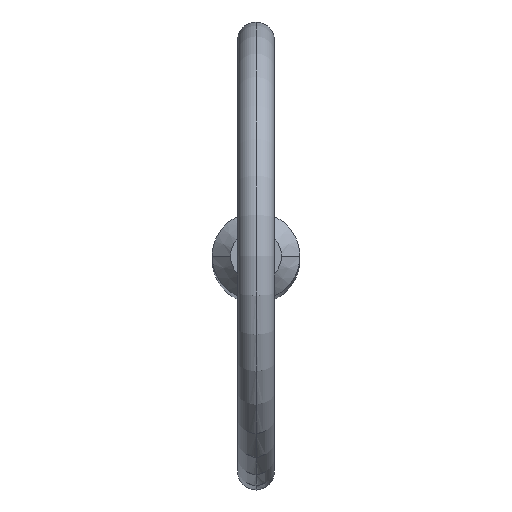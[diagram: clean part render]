
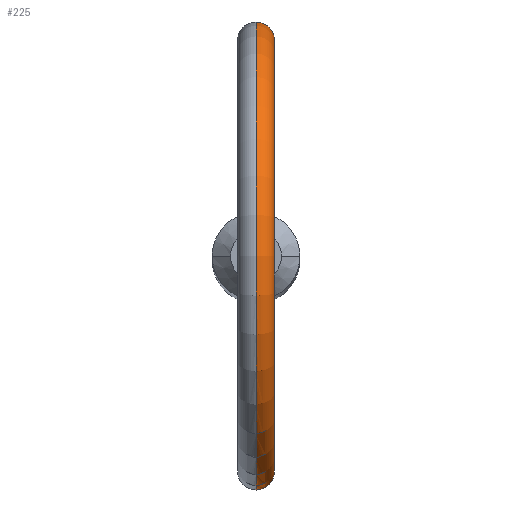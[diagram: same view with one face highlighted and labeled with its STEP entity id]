
A CAD part, top view. The second image highlights one B-rep face of the part: STEP entity #225.
In plain terms, the highlighted toroidal (fillet/blend) face has major radius 11.7 mm and minor radius 1 mm.
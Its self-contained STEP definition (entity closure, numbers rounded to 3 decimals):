
#3 = ORIENTED_EDGE ( 'NONE', *, *, #342, .F. ) ;
#19 = EDGE_LOOP ( 'NONE', ( #454, #93, #3, #243 ) ) ;
#36 = CARTESIAN_POINT ( 'NONE',  ( 0.981, 2.169, 100.062 ) ) ;
#40 = CARTESIAN_POINT ( 'NONE',  ( 0.134, 2.38, 101.368 ) ) ;
#45 = VERTEX_POINT ( 'NONE', #327 ) ;
#68 = VERTEX_POINT ( 'NONE', #294 ) ;
#69 = CARTESIAN_POINT ( 'NONE',  ( 0.811, -2.24, 99.706 ) ) ;
#70 = CIRCLE ( 'NONE', #443, 10.7 ) ;
#72 = CARTESIAN_POINT ( 'NONE',  ( 0., 2.38, 99.325 ) ) ;
#74 = CARTESIAN_POINT ( 'NONE',  ( 0.996, 2.162, 100.464 ) ) ;
#78 = CARTESIAN_POINT ( 'NONE',  ( 0., -2.38, 101.368 ) ) ;
#89 = FACE_OUTER_BOUND ( 'NONE', #19, .T. ) ;
#93 = ORIENTED_EDGE ( 'NONE', *, *, #208, .T. ) ;
#94 = EDGE_CURVE ( 'NONE', #396, #399, #70, .T. ) ;
#98 = DIRECTION ( 'NONE',  ( 0., 0., -1. ) ) ;
#101 = DIRECTION ( 'NONE',  ( 0., 0., -1. ) ) ;
#107 = CARTESIAN_POINT ( 'NONE',  ( 0.268, -2.368, 101.337 ) ) ;
#109 = CARTESIAN_POINT ( 'NONE',  ( 0., -2.38, 101.368 ) ) ;
#110 = TOROIDAL_SURFACE ( 'NONE', #236, 11.7, 1. ) ;
#111 = CARTESIAN_POINT ( 'NONE',  ( 0.614, 2.301, 101.145 ) ) ;
#112 = CARTESIAN_POINT ( 'NONE',  ( 0.513, -2.327, 99.448 ) ) ;
#130 = CARTESIAN_POINT ( 'NONE',  ( 0., 0., 111.8 ) ) ;
#141 = CARTESIAN_POINT ( 'NONE',  ( 0., 0., 111.8 ) ) ;
#142 = CARTESIAN_POINT ( 'NONE',  ( 0.508, -2.328, 101.224 ) ) ;
#144 = CARTESIAN_POINT ( 'NONE',  ( 0.865, -2.218, 100.84 ) ) ;
#165 = DIRECTION ( 'NONE',  ( 0., 0., -1. ) ) ;
#179 = CARTESIAN_POINT ( 'NONE',  ( 0.811, 2.24, 99.706 ) ) ;
#181 = CARTESIAN_POINT ( 'NONE',  ( 0.996, -2.162, 100.464 ) ) ;
#205 = CIRCLE ( 'NONE', #428, 12.7 ) ;
#208 = EDGE_CURVE ( 'NONE', #68, #45, #205, .T. ) ;
#216 = CARTESIAN_POINT ( 'NONE',  ( 0.267, 2.368, 99.35 ) ) ;
#224 = CARTESIAN_POINT ( 'NONE',  ( 0., 2.38, 101.368 ) ) ;
#225 = ADVANCED_FACE ( 'NONE', ( #89 ), #110, .T. ) ;
#236 = AXIS2_PLACEMENT_3D ( 'NONE', #241, #270, #101 ) ;
#239 = DIRECTION ( 'NONE',  ( 1., 0., 0. ) ) ;
#241 = CARTESIAN_POINT ( 'NONE',  ( 0., 0., 111.8 ) ) ;
#242 = CARTESIAN_POINT ( 'NONE',  ( 0.966, -2.176, 100.597 ) ) ;
#243 = ORIENTED_EDGE ( 'NONE', *, *, #94, .F. ) ;
#245 = CARTESIAN_POINT ( 'NONE',  ( 0.885, -2.21, 99.817 ) ) ;
#246 = CARTESIAN_POINT ( 'NONE',  ( 0.884, 2.21, 99.817 ) ) ;
#270 = DIRECTION ( 'NONE',  ( 1., 0., 0. ) ) ;
#276 = CARTESIAN_POINT ( 'NONE',  ( 1.003, -2.158, 100.199 ) ) ;
#294 = CARTESIAN_POINT ( 'NONE',  ( 0., 2.38, 99.325 ) ) ;
#313 = CARTESIAN_POINT ( 'NONE',  ( 0.864, 2.218, 100.841 ) ) ;
#314 = CARTESIAN_POINT ( 'NONE',  ( 0.793, 2.246, 100.953 ) ) ;
#327 = CARTESIAN_POINT ( 'NONE',  ( 0., -2.38, 99.325 ) ) ;
#342 = EDGE_CURVE ( 'NONE', #399, #45, #381, .T. ) ;
#349 = CARTESIAN_POINT ( 'NONE',  ( 0.268, -2.368, 99.351 ) ) ;
#350 = CARTESIAN_POINT ( 'NONE',  ( 0.793, -2.246, 100.952 ) ) ;
#351 = CARTESIAN_POINT ( 'NONE',  ( 0.625, -2.299, 99.521 ) ) ;
#352 = CARTESIAN_POINT ( 'NONE',  ( 0.509, 2.328, 101.224 ) ) ;
#356 = CARTESIAN_POINT ( 'NONE',  ( 0.133, -2.38, 99.325 ) ) ;
#365 = CARTESIAN_POINT ( 'NONE',  ( 0., 2.38, 101.368 ) ) ;
#373 = EDGE_CURVE ( 'NONE', #68, #396, #461, .T. ) ;
#375 = DIRECTION ( 'NONE',  ( 1., 0., 0. ) ) ;
#381 = B_SPLINE_CURVE_WITH_KNOTS ( 'NONE', 3,
 ( #109, #467, #107, #142, #469, #350, #144, #242, #181, #276, #433, #245, #69, #351, #112, #349, #356, #438 ),
 .UNSPECIFIED., .F., .F.,
 ( 4, 2, 2, 2, 2, 2, 2, 2, 4 ),
 ( 0.003, 0.003, 0.003, 0.004, 0.004, 0.005, 0.005, 0.005, 0.006 ),
 .UNSPECIFIED. ) ;
#391 = CARTESIAN_POINT ( 'NONE',  ( 0.513, 2.327, 99.449 ) ) ;
#395 = CARTESIAN_POINT ( 'NONE',  ( 0.133, 2.38, 99.325 ) ) ;
#396 = VERTEX_POINT ( 'NONE', #224 ) ;
#399 = VERTEX_POINT ( 'NONE', #78 ) ;
#428 = AXIS2_PLACEMENT_3D ( 'NONE', #141, #239, #98 ) ;
#431 = CARTESIAN_POINT ( 'NONE',  ( 1.003, 2.158, 100.197 ) ) ;
#433 = CARTESIAN_POINT ( 'NONE',  ( 0.981, -2.169, 100.064 ) ) ;
#434 = CARTESIAN_POINT ( 'NONE',  ( 0.267, 2.368, 101.337 ) ) ;
#438 = CARTESIAN_POINT ( 'NONE',  ( 0., -2.38, 99.325 ) ) ;
#443 = AXIS2_PLACEMENT_3D ( 'NONE', #130, #375, #165 ) ;
#454 = ORIENTED_EDGE ( 'NONE', *, *, #373, .F. ) ;
#461 = B_SPLINE_CURVE_WITH_KNOTS ( 'NONE', 3,
 ( #72, #395, #216, #391, #472, #179, #246, #36, #431, #74, #475, #313, #314, #111, #352, #434, #40, #365 ),
 .UNSPECIFIED., .F., .F.,
 ( 4, 2, 2, 2, 2, 2, 2, 2, 4 ),
 ( 0.001, 0.001, 0.001, 0.002, 0.002, 0.003, 0.003, 0.003, 0.004 ),
 .UNSPECIFIED. ) ;
#467 = CARTESIAN_POINT ( 'NONE',  ( 0.134, -2.38, 101.368 ) ) ;
#469 = CARTESIAN_POINT ( 'NONE',  ( 0.615, -2.301, 101.144 ) ) ;
#472 = CARTESIAN_POINT ( 'NONE',  ( 0.625, 2.299, 99.521 ) ) ;
#475 = CARTESIAN_POINT ( 'NONE',  ( 0.966, 2.176, 100.597 ) ) ;
